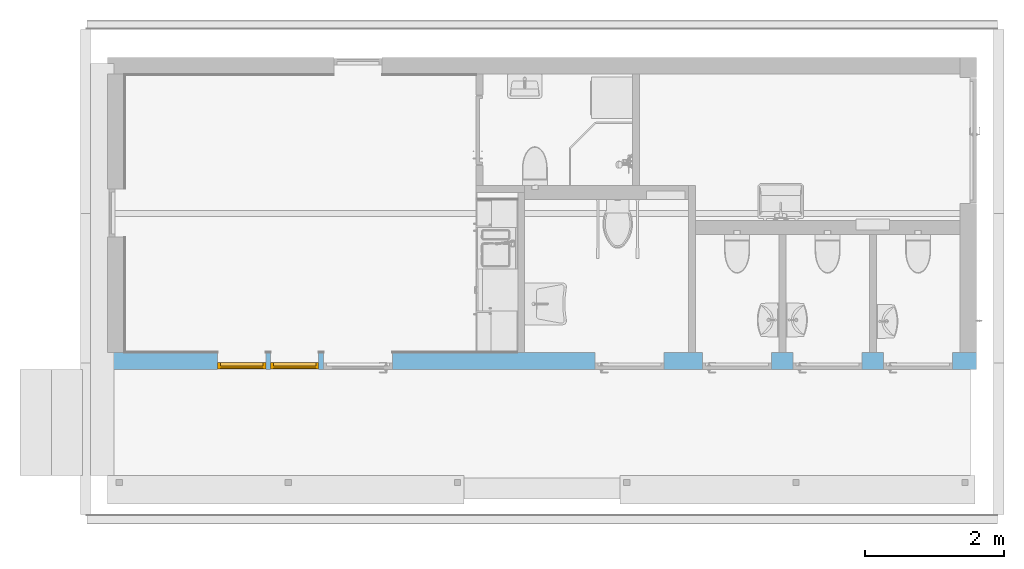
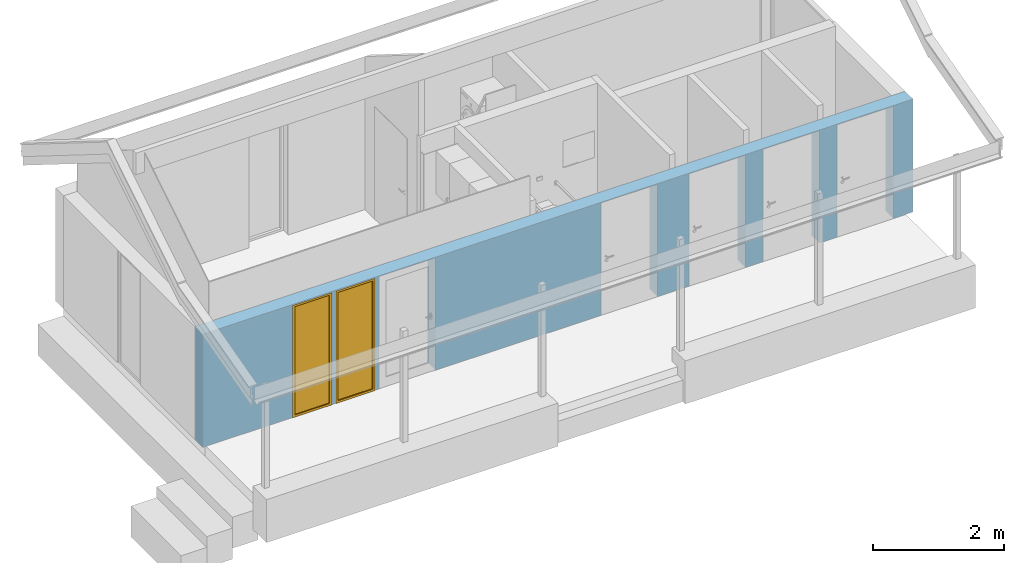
# One storey, part 3 of 15: 2 windows, 7 openings, plus 1 element that does not belong to this part.
"""IFC2X3 building model written with IfcOpenShell, lengths in millimetres."""

from ifc_helpers import new_model, entity, si_unit, converted_unit, direction, frame, frame_2d, origin, origin_2d_with_axis, place, context, subcontext, project, spatial, polyline, rectangle, outline, extrude, source, transform, mapped, material, material_list, layer, layer_set, layer_usage, type_object, type_shapes, element, fill, save


model = new_model("IFC2X3")

# Units and contexts
model_context = context("Model", 3, precision=0.01, world=origin(), true_north=direction((0.0, 1.0)))
body_context = subcontext(model_context, "Body", "Model", "MODEL_VIEW")
ifc_project = project(units=[si_unit("LENGTHUNIT", "METRE", prefix="MILLI"), si_unit("AREAUNIT", "SQUARE_METRE"), si_unit("VOLUMEUNIT", "CUBIC_METRE"), converted_unit("PLANEANGLEUNIT", "DEGREE", entity("IfcPlaneAngleMeasure", 0.017453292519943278), si_unit("PLANEANGLEUNIT", "RADIAN"), dimensions=[0, 0, 0, 0, 0, 0, 0])], contexts=[model_context])

# Site, building, storey
site_placement = place(None, origin())
site = spatial("IfcSite", under=ifc_project, at=site_placement, Name="Default", CompositionType="ELEMENT")
building_placement = place(site_placement, origin())
building = spatial("IfcBuilding", under=site, at=building_placement, CompositionType="ELEMENT")
storey_placement = place(building_placement, origin())
storey = spatial("IfcBuildingStorey", under=building, at=storey_placement, Name="Et. 1", CompositionType="ELEMENT", Elevation=0.0)

# Wall, openings, windows
ifc_material_1 = material(Name="Vegg - Dobbelfals Stående Kledning - Mørkegrå")
ifc_layer_1 = layer(ifc_material_1, 19.0)
ifc_material_2 = material(Name="Default Floor")
ifc_layer_2 = layer(ifc_material_2, 36.0)
ifc_layer_3 = layer(ifc_material_2, 23.0)
ifc_layer_4 = layer(ifc_material_2, 12.0)
ifc_material_3 = material(Name="Vegg - Stender - Isolert")
ifc_layer_5 = layer(ifc_material_3, 150.0)
ifc_layer_set = layer_set([ifc_layer_1, ifc_layer_2, ifc_layer_3, ifc_layer_4, ifc_layer_5], Name="Basic Wall:Yttervegg stående kl")
ifc_layer_usage = layer_usage(ifc_layer_set, "AXIS2", "POSITIVE", -120.00000000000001)
wall_type = type_object("IfcWallType", Name="Basic Wall:Yttervegg stående kl", PredefinedType="STANDARD", material=ifc_layer_set)
wall_placement = place(storey_placement, frame((11310.567419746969, 11733.19026124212, 0.0)))
wall = element("IfcWallStandardCase", 1, at=wall_placement, inside=storey, type_object=wall_type, material=ifc_layer_usage, Name="Basic Wall:Yttervegg stående kl", context=body_context, shape_type="SweptSolid", body=[
    extrude(rectangle(XDim=12480.000000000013, YDim=240.00000000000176, at=frame_2d((6240.000000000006, 2.8421709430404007e-13), x_axis=(-1.0, 0.0))), origin(), (0.0, 0.0, 1.0), 2100.0),
])
opening_1_placement = place(wall_placement, frame((4090.0, 120.0, 0.0)))
element("IfcOpeningElement", 2, at=opening_1_placement, cuts=wall, Name="YD Glass:10x21M:1", ObjectType="Opening", context=body_context, shape_type="SweptSolid", body=[
    extrude(rectangle(XDim=990.0000000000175, YDim=2090.0000000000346, at=frame_2d((1045.0000000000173, 495.00000000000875), x_axis=(0.0, 1.0))), frame((0.0, 0.0, 0.0), z_axis=(0.0, -1.0, 0.0), x_axis=(0.0, 0.0, 1.0)), (0.0, 0.0, 1.0), 240.00000000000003),
])
opening_2_placement = place(wall_placement, frame((7990.0, 120.0, 0.0)))
element("IfcOpeningElement", 3, at=opening_2_placement, cuts=wall, Name="YD Hel:10x21M:1", ObjectType="Opening", context=body_context, shape_type="SweptSolid", body=[
    extrude(rectangle(XDim=990.0000000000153, YDim=2090.0000000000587, at=frame_2d((1045.0000000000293, 495.0000000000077), x_axis=(0.0, -1.0))), frame((0.0, 0.0, 0.0), z_axis=(0.0, -1.0, 0.0), x_axis=(0.0, 0.0, 1.0)), (0.0, 0.0, 1.0), 240.00000000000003),
])
opening_3_placement = place(wall_placement, frame((12135.0, 120.0, 0.0)))
element("IfcOpeningElement", 4, at=opening_3_placement, cuts=wall, Name="YD Hel:10x21M:1", ObjectType="Opening", context=body_context, shape_type="SweptSolid", body=[
    extrude(rectangle(XDim=990.0000000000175, YDim=2090.0000000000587, at=frame_2d((1045.0000000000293, 495.00000000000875), x_axis=(0.0, -1.0))), frame((0.0, 0.0, 0.0), z_axis=(0.0, -1.0, 0.0), x_axis=(0.0, 0.0, 1.0)), (0.0, 0.0, 1.0), 240.00000000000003),
])
opening_4_placement = place(wall_placement, frame((10835.0, 120.0, 0.0)))
element("IfcOpeningElement", 5, at=opening_4_placement, cuts=wall, Name="YD Hel:10x21M:1", ObjectType="Opening", context=body_context, shape_type="SweptSolid", body=[
    extrude(rectangle(XDim=990.0000000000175, YDim=2090.0000000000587, at=frame_2d((1045.0000000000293, 495.00000000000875), x_axis=(0.0, -1.0))), frame((0.0, 0.0, 0.0), z_axis=(0.0, -1.0, 0.0), x_axis=(0.0, 0.0, 1.0)), (0.0, 0.0, 1.0), 240.00000000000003),
])
opening_5_placement = place(wall_placement, frame((9535.0, 120.0, 0.0)))
element("IfcOpeningElement", 6, at=opening_5_placement, cuts=wall, Name="YD Hel:10x21M:1", ObjectType="Opening", context=body_context, shape_type="SweptSolid", body=[
    extrude(rectangle(XDim=990.0000000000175, YDim=2090.0000000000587, at=frame_2d((1045.0000000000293, 495.00000000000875), x_axis=(0.0, -1.0))), frame((0.0, 0.0, 0.0), z_axis=(0.0, -1.0, 0.0), x_axis=(0.0, 0.0, 1.0)), (0.0, 0.0, 1.0), 240.00000000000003),
])
opening_6_placement = place(wall_placement, frame((3030.0, 120.0, -10.0)))
opening_6 = element("IfcOpeningElement", 7, at=opening_6_placement, cuts=wall, Name="Hel Rute fast:7x21M:1", ObjectType="Opening", context=body_context, shape_type="SweptSolid", body=[
    extrude(rectangle(XDim=690.0000000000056, YDim=2090.000000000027, at=frame_2d((1045.0000000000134, 345.0000000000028), x_axis=(0.0, -1.0))), frame((0.0, 0.0, 0.0), z_axis=(0.0, -1.0, 0.0), x_axis=(0.0, 0.0, 1.0)), (0.0, 0.0, 1.0), 240.00000000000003),
])
opening_7_placement = place(wall_placement, frame((2270.0, 120.0, -10.0)))
opening_7 = element("IfcOpeningElement", 8, at=opening_7_placement, cuts=wall, Name="Hel Rute fast:7x21M:1", ObjectType="Opening", context=body_context, shape_type="SweptSolid", body=[
    extrude(rectangle(XDim=690.0000000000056, YDim=2090.000000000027, at=frame_2d((1045.0000000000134, 345.0000000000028), x_axis=(0.0, -1.0))), frame((0.0, 0.0, 0.0), z_axis=(0.0, -1.0, 0.0), x_axis=(0.0, 0.0, 1.0)), (0.0, 0.0, 1.0), 240.00000000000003),
])
ifc_material_4 = material(Name="Focus - Glass - Klart")
ifc_material_5 = material(Name="Maling mørkegrå")
ifc_material_list = material_list([ifc_material_4, ifc_material_5])
window_style = type_object("IfcWindowStyle", Name="Hel Rute fast:7x21M", ConstructionType="NOTDEFINED", OperationType="NOTDEFINED", ParameterTakesPrecedence=False, Sizeable=False, material=ifc_material_list)
shared_shape = source(origin(), body_context, "Body", "SweptSolid", [
    extrude(rectangle(XDim=25.0, YDim=610.0000000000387, at=origin_2d_with_axis()), frame((345.0, 205.0, 40.0), z_axis=(0.0, 0.0, 1.0), x_axis=(0.0, 1.0, 0.0)), (0.0, 0.0, 1.0), 2009.9999999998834),
    extrude(outline(polyline([(-1045.0, -345.0), (1045.0, -345.0), (1045.0, 345.0), (-1045.0, 345.0), (-1045.0, -345.0)]), holes=[polyline([(1005.0, -305.0), (-1005.0, -305.0), (-1005.0, 305.0), (1005.0, 305.0), (1005.0, -305.0)])]), frame((345.0, 143.0, 1045.0), z_axis=(0.0, 1.0, 0.0), x_axis=(0.0, 0.0, -1.0)), (0.0, 0.0, 1.0), 91.99999999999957),
])
type_shapes(window_style, [shared_shape])
window_1_placement = place(opening_6_placement, frame((0.0, 0.0, 0.0), z_axis=(0.0, 0.0, 1.0), x_axis=(-1.0, 0.0, 0.0)))
window_1 = element("IfcWindow", 9, at=window_1_placement, inside=storey, type_object=window_style, material=ifc_material_list, Name="Hel Rute fast:7x21M", OverallHeight=2090.000000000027, OverallWidth=690.0000000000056, context=body_context, shape_type="MappedRepresentation", body=[
    mapped(shared_shape, transform((0.0, 0.0, 0.0), scale=1.0)),
])
fill(opening_6, window_1)
window_2_placement = place(opening_7_placement, frame((0.0, 0.0, 0.0), z_axis=(0.0, 0.0, 1.0), x_axis=(-1.0, 0.0, 0.0)))
window_2 = element("IfcWindow", 10, at=window_2_placement, inside=storey, type_object=window_style, material=ifc_material_list, Name="Hel Rute fast:7x21M", OverallHeight=2090.000000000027, OverallWidth=690.0000000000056, context=body_context, shape_type="MappedRepresentation", body=[
    mapped(shared_shape, transform((0.0, 0.0, 0.0), scale=1.0)),
])
fill(opening_7, window_2)

save(model, "model.ifc")
